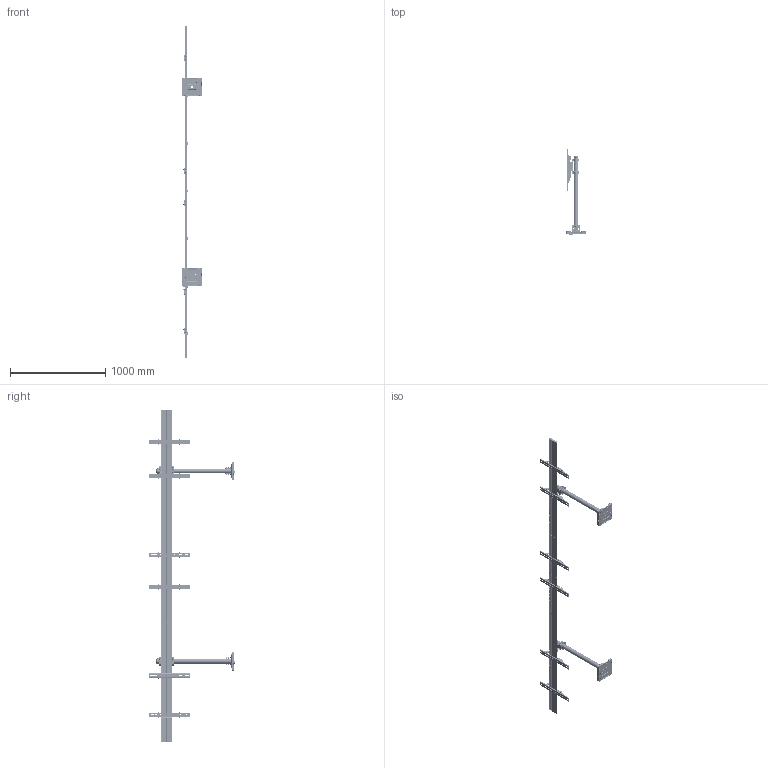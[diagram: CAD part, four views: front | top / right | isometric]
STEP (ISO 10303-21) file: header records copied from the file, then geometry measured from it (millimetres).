
FILE_DESCRIPTION (( 'STEP AP203' ), '1' );
FILE_NAME ('39664.STEP', '2019-07-27T07:22:46', ( '微软用户' ), ( 'Sky123.Org' ), 'SwSTEP 2.0', 'SolidWorks 2016', '' );
FILE_SCHEMA (( 'CONFIG_CONTROL_DESIGN' ));
Length unit declared in the file: millimetre
Products named in the file (37): 呿蹋傍杶2; 蕾奪; 16-6.2-1.5; Х啣; 臏筵寢680; M8-25囀鞠褒埴翐芛; 盄縐; 400T____ ^T400 arm Kanto Version; Х啣裔; NEWT境像; hexagon socket button head screws gb_GB_SOCKET_TYPE7 M8X12-S; 39664; M6-15坋趼蹟佪; D1540Х啣郪璃; 蟀諉え1-; 16-8.2-1.5; NEW酘境像郪璃; M6-60; HDХ啣郪璃; M6-45囀鞠褒埴翐芛; T倰蟀諉璃; 臏筵寢480; 筵寢傷裔; 11-6-5傍杶; 邧芛嘐隅釱SLDASM; NEW衵境像郪璃; T倰璃; M6-50; hexagon socket button head screws gb_GB_SOCKET_TYPE7 M8X12-N; Х旋倰Х啣NEW - 2; 黑裔; M6攝韓蹟譫; 囀鞠褒攫芛蹟佪M8-70; 嘐隅輸; 囀鞠褒攫芛蹟佪M8-60; M6-15; M8攝韓蹟譫
Assembly tree (139 placements, depth 4):
  39664
    臏筵寢680  x3
    NEW酘境像郪璃  x3
      NEWT境像
      蟀諉え1-
      M6-45囀鞠褒埴翐芛
      11-6-5傍杶
      M6-50
      M6攝韓蹟譫
      M6-15
      16-6.2-1.5
      400T____ ^T400 arm Kanto Version
      M6-15坋趼蹟佪
      M6-60
    臏筵寢480
    NEW衵境像郪璃  x3
      NEWT境像
      蟀諉え1-
      M6-45囀鞠褒埴翐芛
      11-6-5傍杶
      M6-50
      M6攝韓蹟譫
      M6-15
      16-6.2-1.5
      400T____ ^T400 arm Kanto Version
      M6-15坋趼蹟佪
      M6-60
    邧芛嘐隅釱SLDASM  x2
      Х旋倰Х啣NEW - 2
      嘐隅輸
      呿蹋傍杶2
      M8-25囀鞠褒埴翐芛
      hexagon socket button head screws gb_GB_SOCKET_TYPE7 M8X12-S
      16-8.2-1.5
      T倰蟀諉璃
    hexagon socket button head screws gb_GB_SOCKET_TYPE7 M8X12-N  x8
    HDХ啣郪璃  x2
      16-8.2-1.5
      囀鞠褒攫芛蹟佪M8-70
      M8攝韓蹟譫
      D1540Х啣郪璃
        Х啣
        Х啣裔  x2
    筵寢傷裔  x2
    T倰璃  x12
    黑裔
    M8攝韓蹟譫  x3
    囀鞠褒攫芛蹟佪M8-60  x2
    蕾奪  x2
    盄縐  x6
Bounding box: 206.18 x 896.35 x 3490 mm (x, y, z)
Volume: 4939242.3 mm3; surface area: 4564228.1 mm2
Topology: 320 solids, 328 shells, 25892 faces, 65558 edges, 41718 vertices
Faces by surface type: bspline 8970, cylinder 7842, plane 7498, cone 1494, torus 88
Entity records: 295539 total; most frequent: CARTESIAN_POINT 172576, ORIENTED_EDGE 28052, DIRECTION 18283, EDGE_CURVE 14027, VERTEX_POINT 8959, AXIS2_PLACEMENT_3D 6471, EDGE_LOOP 6035, B_SPLINE_CURVE_WITH_KNOTS 5577
